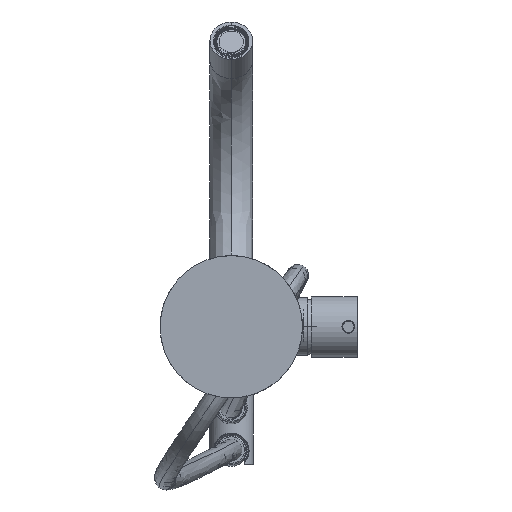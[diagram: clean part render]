
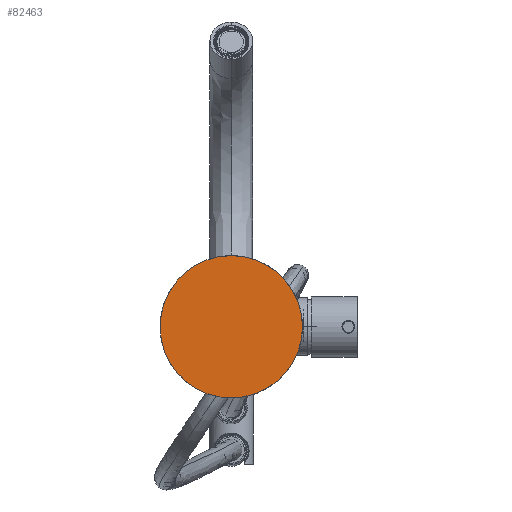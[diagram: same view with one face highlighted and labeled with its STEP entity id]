
A CAD part, front view. The second image highlights one B-rep face of the part: STEP entity #82463.
In plain terms, the highlighted planar face has unit normal (0, -1, 0).
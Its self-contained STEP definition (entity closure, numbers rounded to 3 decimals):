
#82438=CARTESIAN_POINT('',(-60.001,0.0,60.001));
#82439=DIRECTION('',(0.0,1.0,0.0));
#82440=DIRECTION('',(1.0,0.0,0.0));
#82441=AXIS2_PLACEMENT_3D('',#82438,#82439,#82440);
#82442=PLANE('',#82441);
#82443=CARTESIAN_POINT('',(-50.0,0.0,0.0));
#82444=VERTEX_POINT('',#82443);
#82445=CARTESIAN_POINT('',(50.0,0.0,0.0));
#82446=VERTEX_POINT('',#82445);
#82447=CARTESIAN_POINT('',(0.0,0.0,0.0));
#82448=DIRECTION('',(0.0,1.0,0.0));
#82449=DIRECTION('',(1.0,0.0,0.0));
#82450=AXIS2_PLACEMENT_3D('',#82447,#82448,#82449);
#82451=CIRCLE('',#82450,50.0);
#82452=EDGE_CURVE('',#82444,#82446,#82451,.T.);
#82453=ORIENTED_EDGE('',*,*,#82452,.F.);
#82454=CARTESIAN_POINT('',(0.0,0.0,0.0));
#82455=DIRECTION('',(0.0,1.0,0.0));
#82456=DIRECTION('',(1.0,0.0,0.0));
#82457=AXIS2_PLACEMENT_3D('',#82454,#82455,#82456);
#82458=CIRCLE('',#82457,50.0);
#82459=EDGE_CURVE('',#82446,#82444,#82458,.T.);
#82460=ORIENTED_EDGE('',*,*,#82459,.F.);
#82461=EDGE_LOOP('',(#82453,#82460));
#82462=FACE_OUTER_BOUND('',#82461,.T.);
#82463=ADVANCED_FACE('',(#82462),#82442,.F.);
